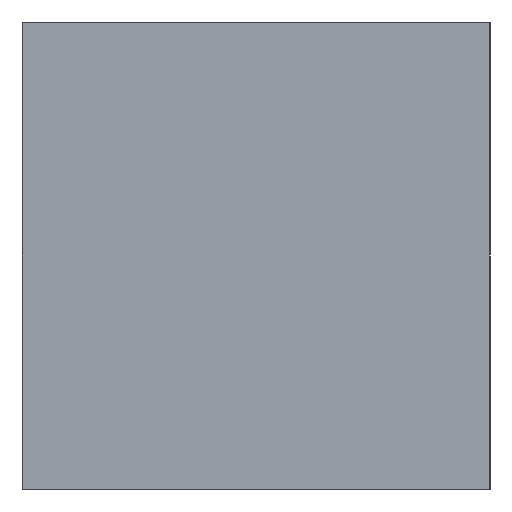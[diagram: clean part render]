
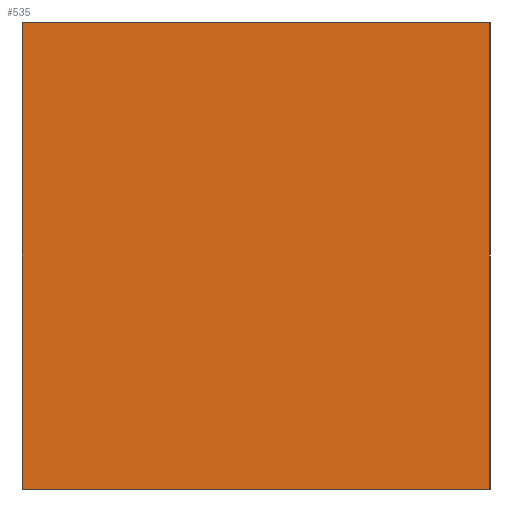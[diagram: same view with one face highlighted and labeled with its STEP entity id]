
A CAD part, left-side view. The second image highlights one B-rep face of the part: STEP entity #535.
In plain terms, the highlighted planar face has unit normal (-1, 0, 0).
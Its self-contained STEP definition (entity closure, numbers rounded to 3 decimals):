
#37=PLANE('',#584);
#41=LINE('',#763,#97);
#48=LINE('',#793,#104);
#52=LINE('',#799,#108);
#57=LINE('',#808,#113);
#97=VECTOR('',#614,499.);
#104=VECTOR('',#647,499.);
#108=VECTOR('',#655,498.);
#113=VECTOR('',#668,498.);
#188=FACE_OUTER_BOUND('',#224,.T.);
#224=EDGE_LOOP('',(#494,#495,#496,#497));
#249=VERTEX_POINT('',#756);
#251=VERTEX_POINT('',#761);
#257=VERTEX_POINT('',#782);
#260=VERTEX_POINT('',#789);
#296=EDGE_CURVE('',#251,#249,#41,.T.);
#311=EDGE_CURVE('',#257,#260,#48,.T.);
#315=EDGE_CURVE('',#249,#257,#52,.T.);
#320=EDGE_CURVE('',#251,#260,#57,.T.);
#494=ORIENTED_EDGE('',*,*,#296,.F.);
#495=ORIENTED_EDGE('',*,*,#320,.T.);
#496=ORIENTED_EDGE('',*,*,#311,.F.);
#497=ORIENTED_EDGE('',*,*,#315,.F.);
#535=ADVANCED_FACE('',(#188),#37,.T.);
#584=AXIS2_PLACEMENT_3D('',#884,#734,#735);
#614=DIRECTION('',(0.,1.,0.));
#647=DIRECTION('',(0.,-1.,0.));
#655=DIRECTION('',(0.,0.,1.));
#668=DIRECTION('',(0.,0.,1.));
#734=DIRECTION('center_axis',(-1.,0.,0.));
#735=DIRECTION('ref_axis',(0.,0.,1.));
#756=CARTESIAN_POINT('',(0.,499.,-499.));
#761=CARTESIAN_POINT('',(0.,0.,-499.));
#763=CARTESIAN_POINT('',(0.,0.,-499.));
#782=CARTESIAN_POINT('',(0.,499.,-1.));
#789=CARTESIAN_POINT('',(0.,0.,-1.));
#793=CARTESIAN_POINT('',(0.,0.,-1.));
#799=CARTESIAN_POINT('',(0.,499.,-375.));
#808=CARTESIAN_POINT('',(0.,0.,-500.));
#884=CARTESIAN_POINT('Origin',(0.,0.,-500.));
